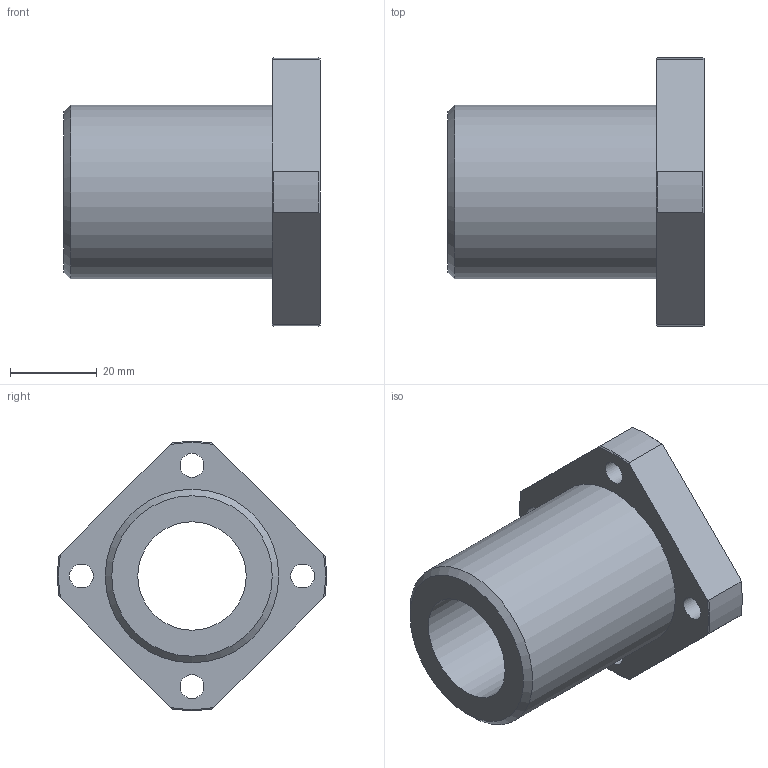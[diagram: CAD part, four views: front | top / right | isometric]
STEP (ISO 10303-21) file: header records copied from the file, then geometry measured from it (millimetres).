
FILE_DESCRIPTION(('STEP AP203'),'1');
FILE_NAME('//192.168.1.1/share/s-4 技術開発/s-4-4_CAD/s-4-4-3_見直し済み/PBC LINEAR修正済み/3D途中/SFPJ/SFPJ/SFPJ25.step','2022-03-24T05:50:58',(' '),(' '),'Spatial InterOp 3D',' ',' ');
FILE_SCHEMA(('CONFIG_CONTROL_DESIGN'));
Length unit declared in the file: millimetre
Products named in the file (1): 1
Bounding box: 59 x 61.92 x 61.92 mm (x, y, z)
Volume: 55979.5 mm3; surface area: 17223.2 mm2
Topology: 1 solids, 1 shells, 34 faces, 85 edges, 58 vertices
Faces by surface type: cylinder 14, plane 11, cone 9
Full cylindrical faces by diameter (mm): 5.5 x4, 9 x4, 25 x1, 40 x1
Entity records: 1018 total; most frequent: CARTESIAN_POINT 205, DIRECTION 160, ORIENTED_EDGE 138, AXIS2_PLACEMENT_3D 72, EDGE_CURVE 69, EDGE_LOOP 60, VERTEX_POINT 53, FACE_OUTER_BOUND 44
